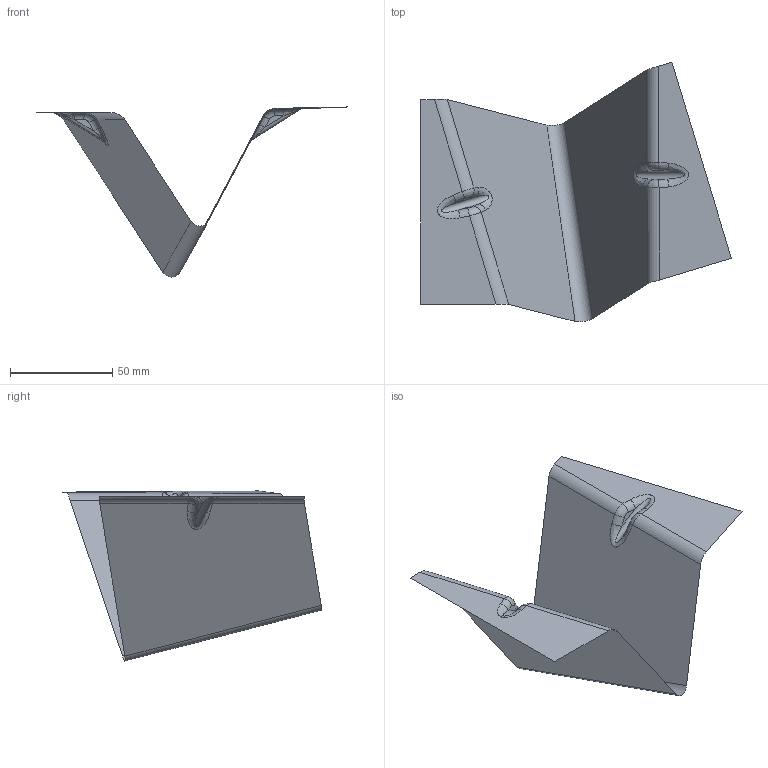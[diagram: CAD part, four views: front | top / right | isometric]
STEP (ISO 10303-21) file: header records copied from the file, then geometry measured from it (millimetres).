
FILE_DESCRIPTION(('CATIA V5 STEP Exchange'),'2;1');
FILE_NAME('C:\_Andres\UNIVERSIDAD\IQS\ASIGNATURAS\DAO\EXF\EXF-16172c\2inicio\Domeque_Sanz_Ej03_v9.stp','2017-03-05T19:32:08+00:00',('none'),('none'),'CATIA Version 5-6 Release 2014 SP1 HF18','CATIA V5 STEP AP203','none');
FILE_SCHEMA(('CONFIG_CONTROL_DESIGN'));
Length unit declared in the file: millimetre
Products named in the file (1): Domeque_Sanz_Ej03_v9
Bounding box: 151.76 x 126.64 x 83.02 mm (x, y, z)
Surface area: 22069.7 mm2 (no closed solid volume)
Topology: 0 solids, 1 shells, 31 faces, 78 edges, 48 vertices
Faces by surface type: cylinder 15, plane 8, bspline 8
Entity records: 2341 total; most frequent: CARTESIAN_POINT 1668, ORIENTED_EDGE 140, DIRECTION 90, EDGE_CURVE 78, VERTEX_POINT 48, VECTOR 40, LINE 40, ADVANCED_FACE 31
